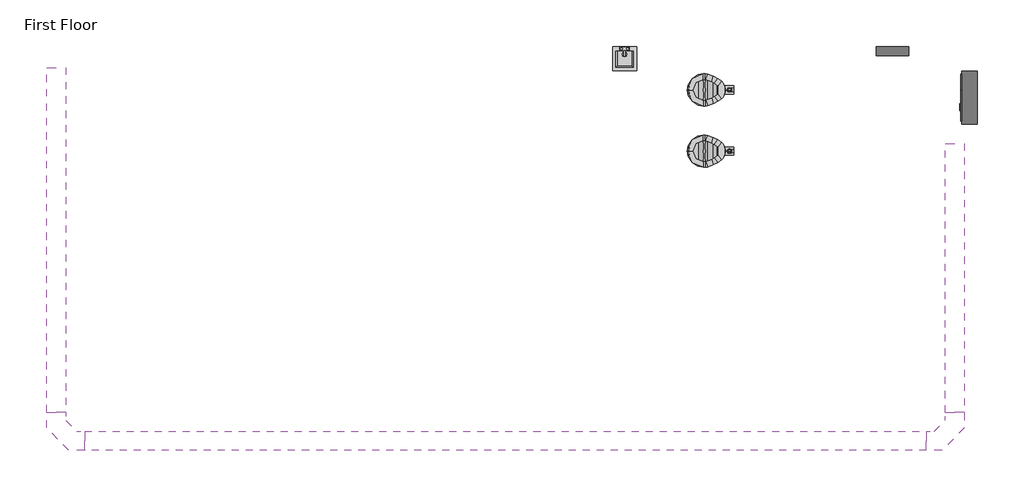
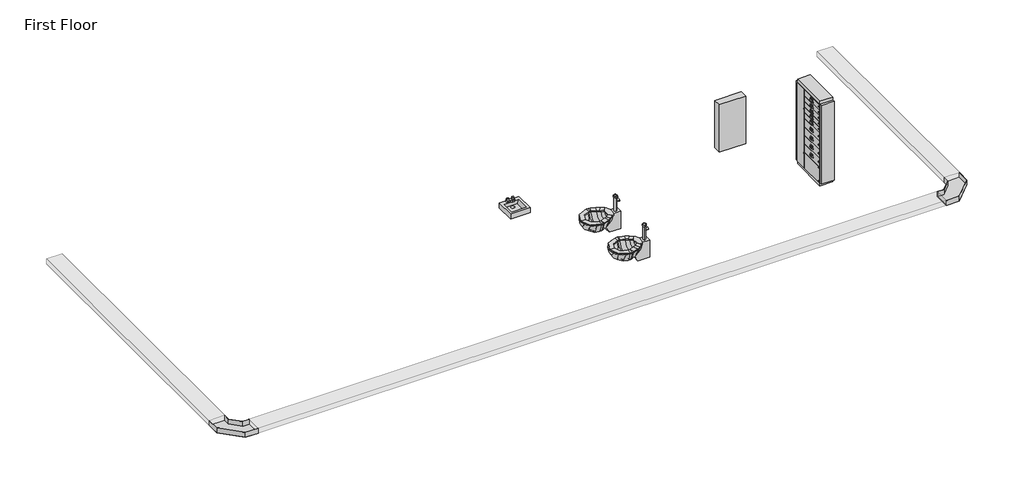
# One storey: 3 cable carrier segments, 3 flow terminals, 2 cable carrier fittings, 1 electric distribution board, 1 proxy.
"""IFC4 building model written with IfcOpenShell, lengths in millimetres."""

from ifc_helpers import new_model, si_unit, frame, origin, place, context, project, spatial, polyline, outline, extrude, transform, mapped, element, save
from components import lighting_and_appliance_panelboard_400v_mcb_surface_100_a_7dc0af96, cable_tray_horizontal_bend_standard_e2de60b4, electric_distribution_board_2e1e9983, m_lavatory_rectangular_380_mmx380_mm_private_9cb69c6e, m_water_closet_flush_valve_wall_mounted_private_6_1_lpf_4ab4cbdd

model = new_model("IFC4")

# Units and contexts
model_context = context("Model", 3, world=origin())
ifc_project = project(units=[si_unit("LENGTHUNIT", "METRE", prefix="MILLI")], contexts=[model_context])

# Site, building, storey
site = spatial("IfcSite", under=ifc_project)
building = spatial("IfcBuilding", under=site)
storey = spatial("IfcBuildingStorey", under=building, Name="First Floor", Elevation=0.0)

# Proxy
placement = place(None, origin())
lighting_and_appliance_panelboard_400v_mcb_surface_100_a_shape = lighting_and_appliance_panelboard_400v_mcb_surface_100_a_7dc0af96(model_context)
element("IfcBuildingElementProxy", 1, Name="Lighting and Appliance Panelboard - 400V MCB - Surface : 100 A", ObjectType="Lighting and Appliance Panelboard - 400V MCB - Surface : 100 A", at=placement, inside=storey, context=model_context, shape_type="MappedRepresentation", body=[
    mapped(lighting_and_appliance_panelboard_400v_mcb_surface_100_a_shape, transform((7572.7491778, 1889.6075821, 1500.0), x_axis=(1.0, 0.0, 0.0), y_axis=(0.0, 0.0, 1.0), z_axis=(0.0, -1.0, 0.0))),
])

# Cable carrier fittings
cable_tray_horizontal_bend_standard_shape = cable_tray_horizontal_bend_standard_e2de60b4(model_context)
element("IfcCableCarrierFitting", 2, ObjectType="Cable Tray Horizontal Bend : Standard", at=placement, inside=storey, context=model_context, shape_type="MappedRepresentation", body=[
    mapped(cable_tray_horizontal_bend_standard_shape, transform((8556.847993, -4345.0291205, 3000.0), x_axis=(1.0, 0.0, 0.0), y_axis=(0.0, 1.0, 0.0), z_axis=(0.0, 0.0, 1.0))),
])
element("IfcCableCarrierFitting", 3, ObjectType="Cable Tray Horizontal Bend : Standard", at=placement, inside=storey, context=model_context, shape_type="MappedRepresentation", body=[
    mapped(cable_tray_horizontal_bend_standard_shape, transform((-5643.152007, -4345.0291205, 3000.0), x_axis=(0.0, -1.0, 0.0), y_axis=(1.0, 0.0, 0.0), z_axis=(0.0, 0.0, 1.0))),
])

# Cable carrier segments
element("IfcCableCarrierSegment", 4, ObjectType="Channel Cable Tray", at=placement, inside=storey, context=model_context, shape_type="SweptSolid", body=[
    extrude(outline(polyline([(8406.847993, 354.9708795), (8706.847993, 354.9708795), (8706.847993, -3895.0291205), (8406.847993, -3895.0291205), (8406.847993, 354.9708795)])), frame((0.0, 0.0, 2950.0), z_axis=(0.0, 0.0, 1.0), x_axis=(1.0, 0.0, 0.0)), (0.0, 0.0, 1.0), 100.0),
])
element("IfcCableCarrierSegment", 5, ObjectType="Channel Cable Tray", at=placement, inside=storey, context=model_context, shape_type="SweptSolid", body=[
    extrude(outline(polyline([(8106.847993, -4195.0291205), (8106.847993, -4495.0291205), (-5193.152007, -4495.0291205), (-5193.152007, -4195.0291205), (8106.847993, -4195.0291205)])), frame((0.0, 0.0, 2950.0), z_axis=(0.0, 0.0, 1.0), x_axis=(1.0, 0.0, 0.0)), (0.0, 0.0, 1.0), 100.0),
])
element("IfcCableCarrierSegment", 6, ObjectType="Channel Cable Tray", at=placement, inside=storey, context=model_context, shape_type="SweptSolid", body=[
    extrude(outline(polyline([(-5493.152007, -3895.0291205), (-5793.152007, -3895.0291205), (-5793.152007, 1554.9708795), (-5493.152007, 1554.9708795), (-5493.152007, -3895.0291205)])), frame((0.0, 0.0, 2950.0), z_axis=(0.0, 0.0, 1.0), x_axis=(1.0, 0.0, 0.0)), (0.0, 0.0, 1.0), 100.0),
])

# Electric distribution board
electric_distribution_board_shape = electric_distribution_board_2e1e9983(model_context)
element("IfcElectricDistributionBoard", 7, ObjectType="nbl_CubicleSwitchboards_1.0 : nbl_CubicleSwitchboards_1.0", at=placement, inside=storey, context=model_context, shape_type="MappedRepresentation", body=[
    mapped(electric_distribution_board_shape, transform((8914.4801388, 1080.4029853, 0.0), x_axis=(0.0, -1.0, 0.0), y_axis=(1.0, 0.0, 0.0), z_axis=(0.0, 0.0, 1.0))),
])

# Flow terminals
m_lavatory_rectangular_380_mmx380_mm_private_shape = m_lavatory_rectangular_380_mmx380_mm_private_9cb69c6e(model_context)
element("IfcFlowTerminal", 8, ObjectType="M_Lavatory - Rectangular : 380 mmx380 mm - Private", at=placement, inside=storey, context=model_context, shape_type="MappedRepresentation", body=[
    mapped(m_lavatory_rectangular_380_mmx380_mm_private_shape, transform((3338.6814887, 1889.6075821, 865.0), x_axis=(1.0, 0.0, 0.0), y_axis=(0.0, 0.0, 1.0), z_axis=(0.0, -1.0, 0.0))),
])
m_water_closet_flush_valve_wall_mounted_private_6_1_lpf_shape = m_water_closet_flush_valve_wall_mounted_private_6_1_lpf_4ab4cbdd(model_context)
element("IfcFlowTerminal", 9, ObjectType="M_Water Closet - Flush Valve - Wall Mounted : Private - 6.1 Lpf", at=placement, inside=storey, context=model_context, shape_type="MappedRepresentation", body=[
    mapped(m_water_closet_flush_valve_wall_mounted_private_6_1_lpf_shape, transform((5066.9801388, 1202.3207169, 424.0175826), x_axis=(0.0, -1.0, 0.0), y_axis=(0.0, 0.0, 1.0), z_axis=(-1.0, 0.0, 0.0))),
])
element("IfcFlowTerminal", 10, ObjectType="M_Water Closet - Flush Valve - Wall Mounted : Private - 6.1 Lpf", at=placement, inside=storey, context=model_context, shape_type="MappedRepresentation", body=[
    mapped(m_water_closet_flush_valve_wall_mounted_private_6_1_lpf_shape, transform((5066.9801388, 234.0015903, 424.0175826), x_axis=(0.0, -1.0, 0.0), y_axis=(0.0, 0.0, 1.0), z_axis=(-1.0, 0.0, 0.0))),
])

save(model, "model.ifc")
